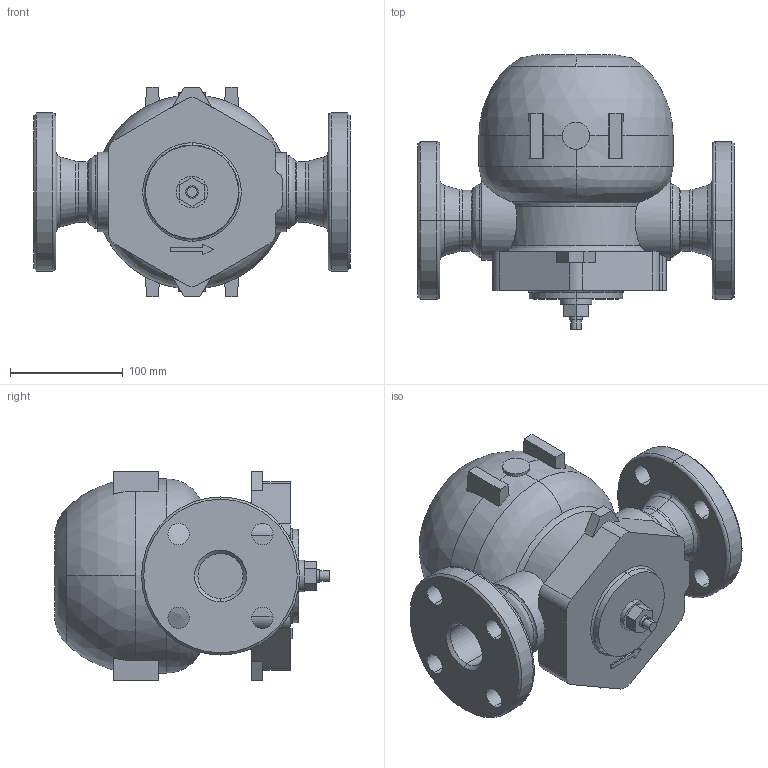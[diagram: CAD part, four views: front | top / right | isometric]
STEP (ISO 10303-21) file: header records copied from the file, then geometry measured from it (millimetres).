
FILE_DESCRIPTION( (''), '2;1');
FILE_NAME ('PC1027.14300.TSF-11F 40A(JIS 10K,20K)_5238.stp','2025-07-30T18:22:57',(''),(''),'spGate 20.6.3 (****-****-****-****)','','');
FILE_SCHEMA (('AUTOMOTIVE_DESIGN'));
Length unit declared in the file: millimetre
Bounding box: 280 x 243.5 x 186 mm (x, y, z)
Volume: 4599695.7 mm3; surface area: 252008.4 mm2
Topology: 1 solids, 1 shells, 173 faces, 438 edges, 277 vertices
Faces by surface type: plane 67, cylinder 56, bspline 48, sphere 2
Entity records: 9829 total; most frequent: CARTESIAN_POINT 2413, ORIENTED_EDGE 876, DIRECTION 757, COLOUR_RGB 612, PRESENTATION_STYLE_ASSIGNMENT 612, STYLED_ITEM 612, EDGE_CURVE 438, DRAUGHTING_PRE_DEFINED_CURVE_FONT 438
